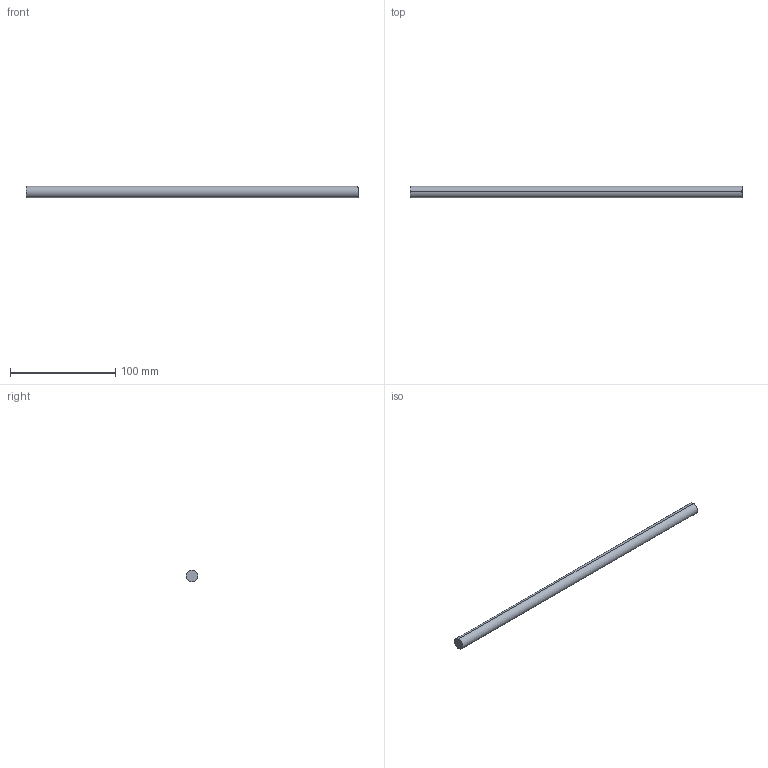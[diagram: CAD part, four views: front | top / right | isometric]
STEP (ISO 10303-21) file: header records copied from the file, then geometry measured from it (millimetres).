
FILE_DESCRIPTION (( 'STEP AP214' ), '1' );
FILE_NAME ('Querreling_Frontblende_Innenlade_KS-16_KAB-400.step', '2010-09-22T15:05:27', ( 'grass' ), ( '' ), 'SwSTEP 2.0', 'SolidWorks 2010', '' );
FILE_SCHEMA (( 'AUTOMOTIVE_DESIGN' ));
Length unit declared in the file: millimetre
Products named in the file (1): Querreling_Frontblende_Innenlade_KS-16_KAB-400
Bounding box: 315 x 11 x 11 mm (x, y, z)
Volume: 29935.5 mm3; surface area: 11075.7 mm2
Topology: 1 solids, 1 shells, 4 faces, 6 edges, 4 vertices
Faces by surface type: cylinder 2, plane 2
Entity records: 128 total; most frequent: DIRECTION 20, CARTESIAN_POINT 15, ORIENTED_EDGE 12, AXIS2_PLACEMENT_3D 9, EDGE_CURVE 6, FACE_OUTER_BOUND 4, CIRCLE 4, EDGE_LOOP 4
